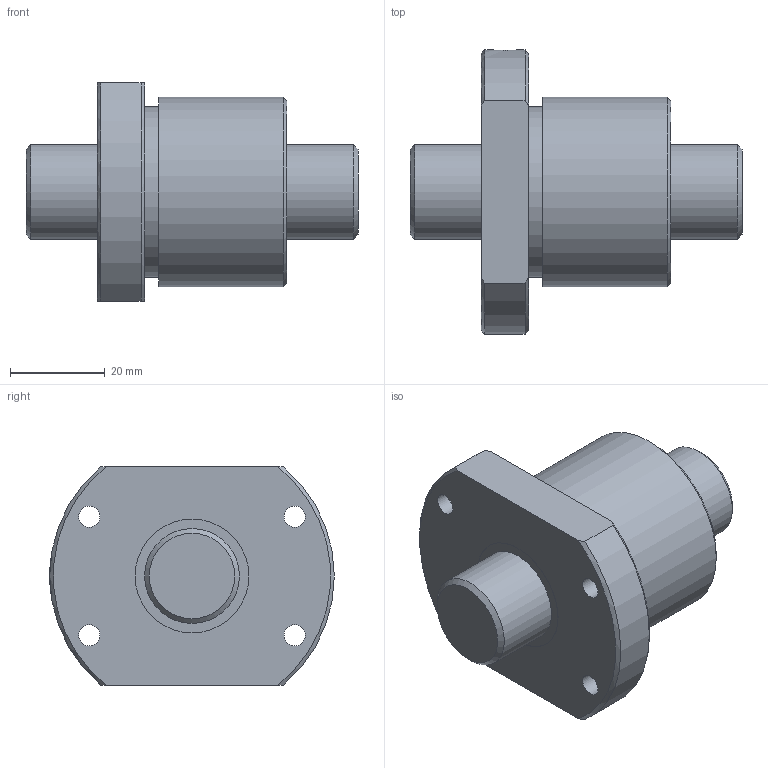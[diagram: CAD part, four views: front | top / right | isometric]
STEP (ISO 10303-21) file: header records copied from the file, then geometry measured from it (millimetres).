
FILE_DESCRIPTION(/* description */ ('STEP AP203'),/* implementation_level */ '2;1');
FILE_NAME(/* name */ 'BTK2005V-2.6ZZ+70LC7T_000',/* time_stamp */ '2025-01-16T07:55:56+01:00',/* author */ ('License CC BY-ND 4.0'),/* organization */ ('CADENAS'),/* preprocessor_version */ 'ST-DEVELOPER v19.3',/* originating_system */ 'PARTsolutions',/* authorisation */ ' ');
FILE_SCHEMA (('CONFIG_CONTROL_DESIGN'));
Length unit declared in the file: millimetre
Products named in the file (3): BTK2005V-2.6ZZ+70LC7T_000; BTK 2005V-2.600 Shaft; BTK 2005V-2.6ZZ Nut
Assembly tree (2 placements, depth 2):
  BTK2005V-2.6ZZ+70LC7T_000
    BTK 2005V-2.600 Shaft
    BTK 2005V-2.6ZZ Nut
Bounding box: 70 x 60 x 46 mm (x, y, z)
Volume: 69801.1 mm3; surface area: 18333.5 mm2
Topology: 2 solids, 2 shells, 31 faces, 66 edges, 43 vertices
Faces by surface type: cylinder 13, plane 10, cone 8
Full cylindrical faces by diameter (mm): 4.5 x4, 4.917 x1, 20 x2, 24 x2, 36 x1, 40 x1
Entity records: 887 total; most frequent: CARTESIAN_POINT 170, DIRECTION 140, ORIENTED_EDGE 100, AXIS2_PLACEMENT_3D 66, EDGE_LOOP 62, FACE_BOUND 62, EDGE_CURVE 50, VERTEX_POINT 42
